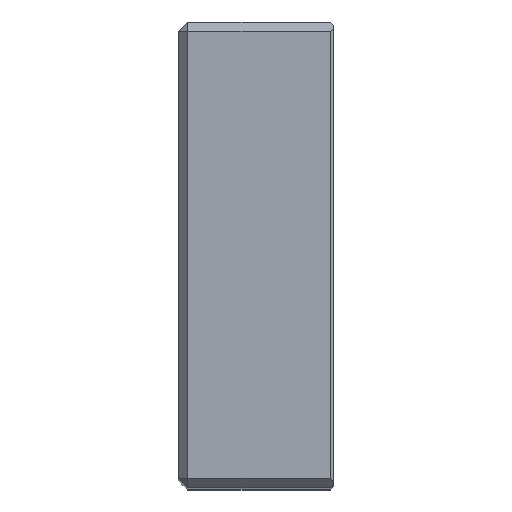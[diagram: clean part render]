
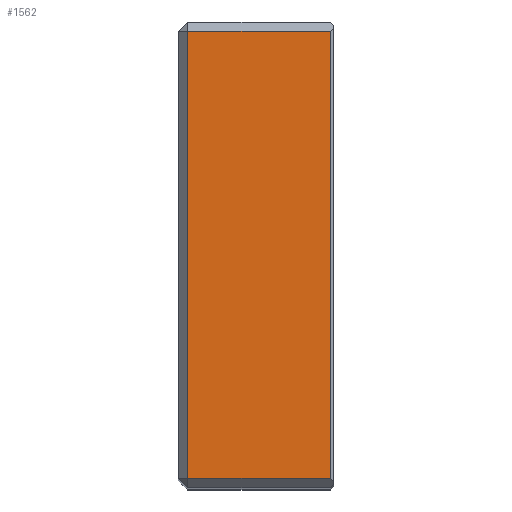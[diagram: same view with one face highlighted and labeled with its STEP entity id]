
A CAD part, top view. The second image highlights one B-rep face of the part: STEP entity #1562.
In plain terms, the highlighted planar face has unit normal (0, 0, 1).
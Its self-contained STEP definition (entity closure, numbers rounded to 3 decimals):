
#145=VERTEX_POINT(' ',#146);
#146=CARTESIAN_POINT('',(3.,72.,0.));
#149=VERTEX_POINT(' ',#150);
#150=CARTESIAN_POINT('',(3.,-72.,0.));
#175=VERTEX_POINT(' ',#176);
#176=CARTESIAN_POINT('',(49.,72.,0.));
#179=VERTEX_POINT(' ',#180);
#180=CARTESIAN_POINT('',(49.,-72.,0.));
#506=LINE('',#507,#508);
#507=CARTESIAN_POINT('',(3.,-91.971,0.));
#508=VECTOR('',#509,1.);
#509=DIRECTION('',(0.,1.,0.));
#510=EDGE_CURVE(' ',#149,#145,#506,.T.);
#626=LINE('',#627,#628);
#627=CARTESIAN_POINT('',(-13.971,72.,0.));
#628=VECTOR('',#629,1.);
#629=DIRECTION('',(1.,0.,0.));
#630=EDGE_CURVE(' ',#145,#175,#626,.T.);
#631=LINE('',#632,#633);
#632=CARTESIAN_POINT('',(49.,77.657,0.));
#633=VECTOR('',#634,1.);
#634=DIRECTION('',(0.,-1.,0.));
#635=EDGE_CURVE(' ',#175,#179,#631,.T.);
#636=LINE('',#637,#638);
#637=CARTESIAN_POINT('',(66.971,-72.,0.));
#638=VECTOR('',#639,1.);
#639=DIRECTION('',(-1.,0.,0.));
#640=EDGE_CURVE(' ',#179,#149,#636,.T.);
#1551=ORIENTED_EDGE('',*,*,#635,.F.);
#1552=ORIENTED_EDGE('',*,*,#630,.F.);
#1553=ORIENTED_EDGE('',*,*,#510,.F.);
#1554=ORIENTED_EDGE('',*,*,#640,.F.);
#1555=EDGE_LOOP('',(#1551,#1552,#1553,#1554));
#1556=FACE_OUTER_BOUND('',#1555,.T.);
#1557=PLANE('',#1558);
#1558=AXIS2_PLACEMENT_3D('',#1559,#1560,#1561);
#1559=CARTESIAN_POINT('',(0.,-75.,0.));
#1560=DIRECTION('',(0.,0.,1.));
#1561=DIRECTION('',(0.,1.,0.));
#1562=ADVANCED_FACE('',(#1556),#1557,.T.);
